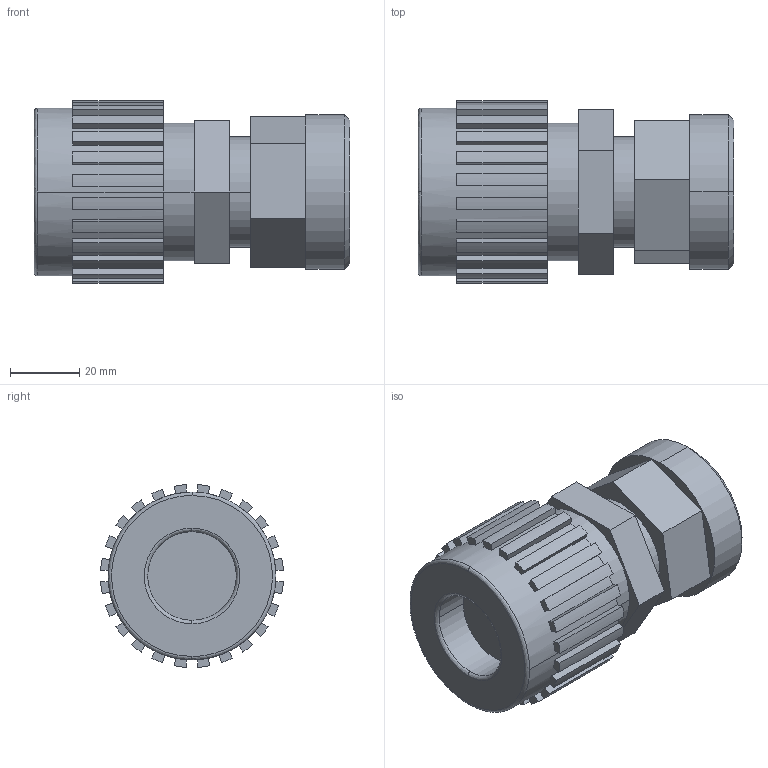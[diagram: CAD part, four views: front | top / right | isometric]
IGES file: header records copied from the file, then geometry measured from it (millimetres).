
Start section: SolidWorks IGES file using analytic representation for surfaces
Global section: file name: S:\Product Visuals\REVISED-60L-TOP-MOUNT-FITTINGS\IGS\pillar-s-300\16-pillar-s-300-with-top-mount-adapter.IGS; native system: SolidWorks 2012; preprocessor: SolidWorks 2012; author: rachel.dressel; date: 121127.120950; units: inch
Bounding box: 91.08 x 52.72 x 52.72 mm (x, y, z)
Volume: 138044.1 mm3; surface area: 22548.5 mm2
Topology: 1 solids, 1 shells, 132 faces, 370 edges, 246 vertices
Faces by surface type: plane 92, revolution 36, bspline 4
